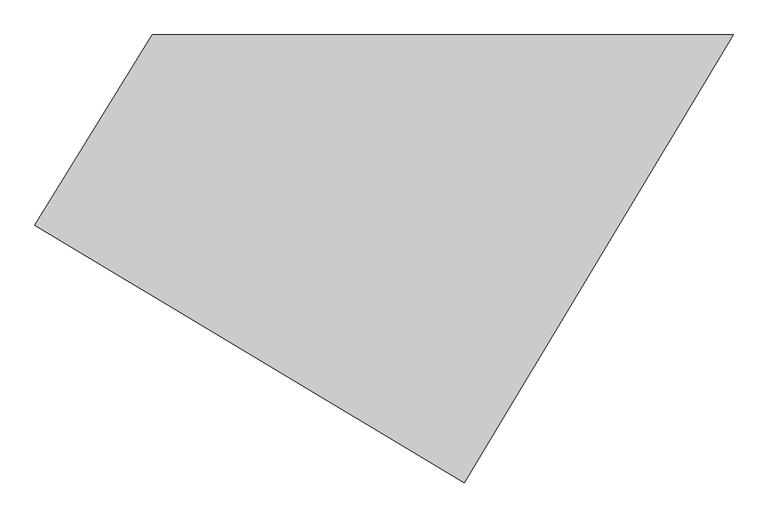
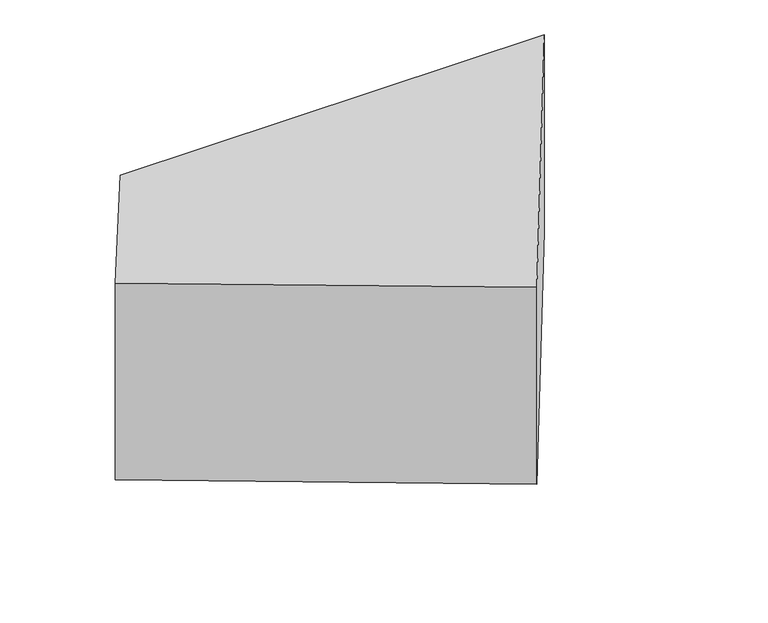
"""IFC4 building model written with IfcOpenShell, lengths in millimetres: proxy geometry."""

from ifc_helpers import new_model, si_unit, origin, origin_with_axes, place, context, project, spatial, polyline, outline, extrude, source, transform, mapped, element, save


def generic_models_68bc7ca6(model_context):
    return source(origin(), model_context, "Body", "SweptSolid", [
        extrude(outline(polyline([(-127790.4961054, -1787.6514619), (-126502.4321709, 301.4662987), (-120122.4530911, 301.4662987), (-123075.4101826, -4617.9538265), (-127790.4961054, -1787.6514619)])), origin_with_axes(), (0.0, 0.0, 1.0), 3130.0),
    ])


if __name__ == "__main__":
    model = new_model("IFC4")
    model_context = context("Model", 3, world=origin())
    ifc_project = project(units=[si_unit("LENGTHUNIT", "METRE", prefix="MILLI")], contexts=[model_context])
    site = spatial("IfcSite", under=ifc_project)
    building = spatial("IfcBuilding", under=site)
    placement = place(None, origin())
    generic_models_shape = generic_models_68bc7ca6(model_context)
    element("IfcBuildingElementProxy", 1, Name="Generic Models", at=placement, inside=building, context=model_context, shape_type="MappedRepresentation", body=[
        mapped(generic_models_shape, transform((0.0, 0.0, 0.0), x_axis=(1.0, 0.0, 0.0), y_axis=(0.0, 1.0, 0.0), z_axis=(0.0, 0.0, 1.0))),
    ])
    save(model, "model.ifc")
